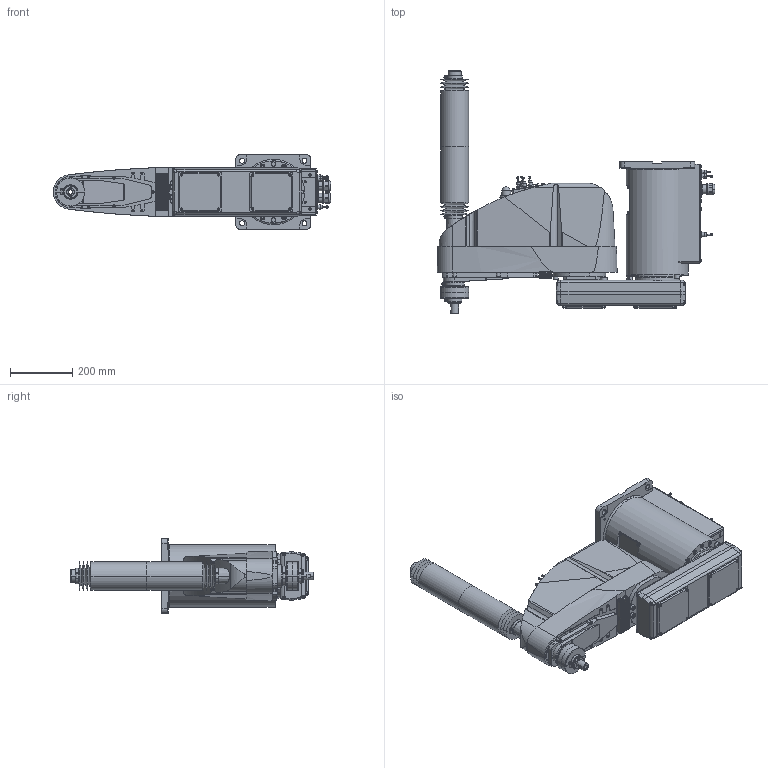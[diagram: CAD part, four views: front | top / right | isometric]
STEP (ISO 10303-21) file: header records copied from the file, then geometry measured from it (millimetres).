
FILE_DESCRIPTION( ( '' ), '1' );
FILE_NAME( '//expscmdclustefs.cadenas.external/client_exchange/iodir/jobs/output/wkb51512533_no0/STEP/G10_654DR_2_03.stp', '2012-11-22T15:36:59', ( '' ), ( '' ), ' ', ' ', ' ' );
FILE_SCHEMA( ( 'CONFIG_CONTROL_DESIGN' ) );
Length unit declared in the file: millimetre
Products named in the file (8): 1; 2; 3; 4; 5; 6; 7; 8
Bounding box: 889.5 x 777.5 x 240 mm (x, y, z)
Volume: 40912078.7 mm3; surface area: 1704590.5 mm2
Topology: 8 solids, 10 shells, 2235 faces, 5425 edges, 3486 vertices
Faces by surface type: plane 1176, cylinder 729, cone 298, torus 31, sphere 1
Entity records: 67488 total; most frequent: CARTESIAN_POINT 13403, DIRECTION 11569, ORIENTED_EDGE 10818, EDGE_CURVE 5409, AXIS2_PLACEMENT_3D 4079, VERTEX_POINT 3486, LINE 3411, VECTOR 3411
